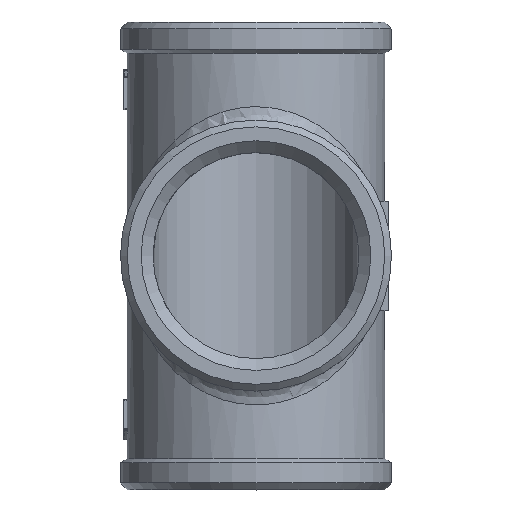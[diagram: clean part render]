
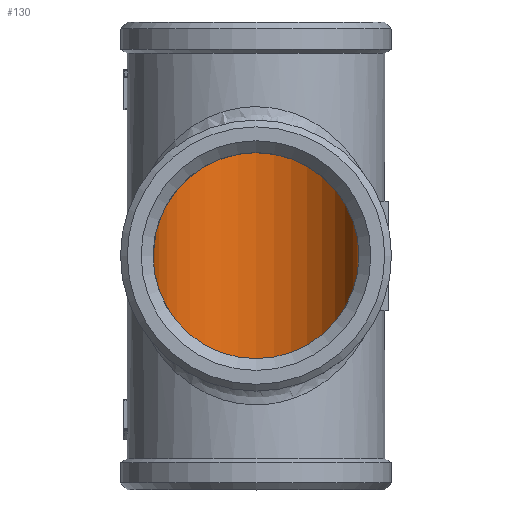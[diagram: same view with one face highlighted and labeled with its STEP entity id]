
A CAD part, top view. The second image highlights one B-rep face of the part: STEP entity #130.
In plain terms, the highlighted cylindrical face has radius 15.2 mm (diameter 30.4 mm), a full revolution.
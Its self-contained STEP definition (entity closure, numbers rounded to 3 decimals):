
#130=ADVANCED_FACE('',(#1214,#1216,#1218),#1220,.F.);
#1214=FACE_BOUND('',#1215,.T.);
#1215=EDGE_LOOP('',(#2321,#2322,#2323));
#1216=FACE_OUTER_BOUND('',#1217,.T.);
#1217=EDGE_LOOP('',(#2324));
#1218=FACE_OUTER_BOUND('',#1219,.T.);
#1219=EDGE_LOOP('',(#2325));
#1220=CYLINDRICAL_SURFACE('',#1221,15.2);
#1221=AXIS2_PLACEMENT_3D('',#1222,#1223,#1224);
#1222=CARTESIAN_POINT('',(0.,-35.5,0.));
#1223=DIRECTION('',(0.,1.,0.));
#1224=DIRECTION('',(-1.,0.,0.));
#2321=ORIENTED_EDGE('',*,*,#3117,.T.);
#2322=ORIENTED_EDGE('',*,*,#3116,.T.);
#2323=ORIENTED_EDGE('',*,*,#3115,.T.);
#2324=ORIENTED_EDGE('',*,*,#3114,.T.);
#2325=ORIENTED_EDGE('',*,*,#3113,.T.);
#3113=EDGE_CURVE('',#3765,#3765,#3766,.F.);
#3114=EDGE_CURVE('',#3767,#3767,#3768,.T.);
#3115=EDGE_CURVE('',#3769,#3770,#3771,.T.);
#3116=EDGE_CURVE('',#3772,#3769,#3773,.F.);
#3117=EDGE_CURVE('',#3770,#3772,#3774,.F.);
#3765=VERTEX_POINT('',#6217);
#3766=CIRCLE('',#6218,15.2);
#3767=VERTEX_POINT('',#6222);
#3768=CIRCLE('',#6223,15.2);
#3769=VERTEX_POINT('',#6227);
#3770=VERTEX_POINT('',#6228);
#3771=(BOUNDED_CURVE()B_SPLINE_CURVE(3,
(#6229,#6230,#6231,#6232),
.UNSPECIFIED.,.F.,.F.)B_SPLINE_CURVE_WITH_KNOTS((4,4),
(0.,1.),
.UNSPECIFIED.)CURVE()GEOMETRIC_REPRESENTATION_ITEM()RATIONAL_B_SPLINE_CURVE((1.,
0.333,0.333,1.))REPRESENTATION_ITEM(''));
#3772=VERTEX_POINT('',#6233);
#3773=(BOUNDED_CURVE()B_SPLINE_CURVE(3,
(#6234,#6235,#6236,#6237),
.UNSPECIFIED.,.F.,.F.)B_SPLINE_CURVE_WITH_KNOTS((4,4),
(0.,1.),
.UNSPECIFIED.)CURVE()GEOMETRIC_REPRESENTATION_ITEM()RATIONAL_B_SPLINE_CURVE((1.,
0.805,0.805,1.))REPRESENTATION_ITEM(''));
#3774=(BOUNDED_CURVE()B_SPLINE_CURVE(3,
(#6238,#6239,#6240,#6241),
.UNSPECIFIED.,.F.,.F.)B_SPLINE_CURVE_WITH_KNOTS((4,4),
(0.,1.),
.UNSPECIFIED.)CURVE()GEOMETRIC_REPRESENTATION_ITEM()RATIONAL_B_SPLINE_CURVE((1.,
0.805,0.805,1.))REPRESENTATION_ITEM(''));
#6217=CARTESIAN_POINT('',(-15.2,-32.75,0.));
#6218=AXIS2_PLACEMENT_3D('',#6219,#6220,#6221);
#6219=CARTESIAN_POINT('',(0.,-32.75,0.));
#6220=DIRECTION('',(0.,1.,0.));
#6221=DIRECTION('',(-1.,0.,0.));
#6222=CARTESIAN_POINT('',(-15.2,32.75,0.));
#6223=AXIS2_PLACEMENT_3D('',#6224,#6225,#6226);
#6224=CARTESIAN_POINT('',(0.,32.75,0.));
#6225=DIRECTION('',(0.,1.,0.));
#6226=DIRECTION('',(-1.,0.,0.));
#6227=CARTESIAN_POINT('',(-15.2,0.,0.));
#6228=CARTESIAN_POINT('',(15.2,0.,0.));
#6229=CARTESIAN_POINT('',(-15.2,0.,0.));
#6230=CARTESIAN_POINT('',(-15.2,-30.4,30.4));
#6231=CARTESIAN_POINT('',(15.2,-30.4,30.4));
#6232=CARTESIAN_POINT('',(15.2,0.,0.));
#6233=CARTESIAN_POINT('',(0.,15.2,15.2));
#6234=CARTESIAN_POINT('',(-15.2,0.,0.));
#6235=CARTESIAN_POINT('',(-15.2,8.904,8.904));
#6236=CARTESIAN_POINT('',(-8.904,15.2,15.2));
#6237=CARTESIAN_POINT('',(0.,15.2,15.2));
#6238=CARTESIAN_POINT('',(0.,15.2,15.2));
#6239=CARTESIAN_POINT('',(8.904,15.2,15.2));
#6240=CARTESIAN_POINT('',(15.2,8.904,8.904));
#6241=CARTESIAN_POINT('',(15.2,0.,0.));
